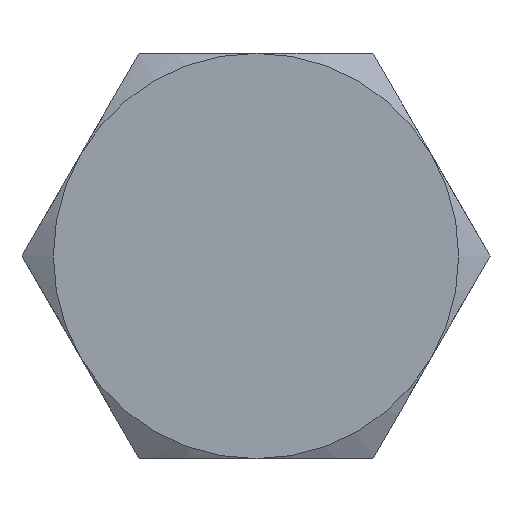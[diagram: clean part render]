
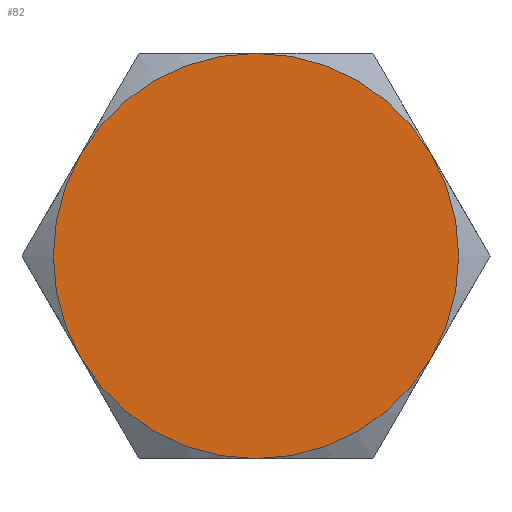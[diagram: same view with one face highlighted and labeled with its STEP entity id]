
A CAD part, left-side view. The second image highlights one B-rep face of the part: STEP entity #82.
In plain terms, the highlighted planar face has unit normal (-1, 0, 0).
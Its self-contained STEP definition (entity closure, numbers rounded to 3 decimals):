
#18 = VERTEX_POINT ( 'NONE', #424 ) ;
#25 = CARTESIAN_POINT ( 'NONE',  ( 0., 5.629, -3.25 ) ) ;
#29 = CARTESIAN_POINT ( 'NONE',  ( 0., 7.506, 0. ) ) ;
#33 = AXIS2_PLACEMENT_3D ( 'NONE', #612, #619, #558 ) ;
#34 = FACE_OUTER_BOUND ( 'NONE', #297, .T. ) ;
#41 = DIRECTION ( 'NONE',  ( 0., 0., 1. ) ) ;
#54 = ORIENTED_EDGE ( 'NONE', *, *, #709, .F. ) ;
#71 = DIRECTION ( 'NONE',  ( 0., 0., -1. ) ) ;
#76 = VERTEX_POINT ( 'NONE', #202 ) ;
#82 = ADVANCED_FACE ( 'NONE', ( #34 ), #549, .F. ) ;
#89 = AXIS2_PLACEMENT_3D ( 'NONE', #443, #668, #503 ) ;
#104 = DIRECTION ( 'NONE',  ( 1., 0., 0. ) ) ;
#110 = ORIENTED_EDGE ( 'NONE', *, *, #721, .F. ) ;
#112 = CARTESIAN_POINT ( 'NONE',  ( 0., 0., 0. ) ) ;
#165 = CARTESIAN_POINT ( 'NONE',  ( 0., 0., -6.5 ) ) ;
#175 = DIRECTION ( 'NONE',  ( 0., 0., -1. ) ) ;
#185 = CIRCLE ( 'NONE', #682, 6.5 ) ;
#202 = CARTESIAN_POINT ( 'NONE',  ( 0., 5.629, 3.25 ) ) ;
#226 = ORIENTED_EDGE ( 'NONE', *, *, #397, .F. ) ;
#230 = CIRCLE ( 'NONE', #425, 6.5 ) ;
#236 = VERTEX_POINT ( 'NONE', #453 ) ;
#255 = AXIS2_PLACEMENT_3D ( 'NONE', #29, #258, #313 ) ;
#256 = CIRCLE ( 'NONE', #671, 6.5 ) ;
#258 = DIRECTION ( 'NONE',  ( 1., 0., 0. ) ) ;
#286 = CARTESIAN_POINT ( 'NONE',  ( 0., 0., 0. ) ) ;
#297 = EDGE_LOOP ( 'NONE', ( #226, #54, #593, #739, #614, #110 ) ) ;
#313 = DIRECTION ( 'NONE',  ( 0., 0., -1. ) ) ;
#356 = CARTESIAN_POINT ( 'NONE',  ( 0., 0., 0. ) ) ;
#397 = EDGE_CURVE ( 'NONE', #688, #525, #423, .T. ) ;
#423 = CIRCLE ( 'NONE', #446, 6.5 ) ;
#424 = CARTESIAN_POINT ( 'NONE',  ( 0., 0., 6.5 ) ) ;
#425 = AXIS2_PLACEMENT_3D ( 'NONE', #112, #725, #41 ) ;
#440 = CARTESIAN_POINT ( 'NONE',  ( 0., -5.629, 3.25 ) ) ;
#443 = CARTESIAN_POINT ( 'NONE',  ( 0., 0., 0. ) ) ;
#446 = AXIS2_PLACEMENT_3D ( 'NONE', #356, #583, #71 ) ;
#450 = VERTEX_POINT ( 'NONE', #440 ) ;
#453 = CARTESIAN_POINT ( 'NONE',  ( 0., -5.629, -3.25 ) ) ;
#503 = DIRECTION ( 'NONE',  ( 0., 0., -1. ) ) ;
#507 = DIRECTION ( 'NONE',  ( 1., 0., 0. ) ) ;
#525 = VERTEX_POINT ( 'NONE', #25 ) ;
#549 = PLANE ( 'NONE',  #255 ) ;
#558 = DIRECTION ( 'NONE',  ( 0., 0., -1. ) ) ;
#566 = DIRECTION ( 'NONE',  ( 0., 0., -1. ) ) ;
#583 = DIRECTION ( 'NONE',  ( 1., 0., 0. ) ) ;
#588 = EDGE_CURVE ( 'NONE', #450, #236, #185, .T. ) ;
#593 = ORIENTED_EDGE ( 'NONE', *, *, #588, .F. ) ;
#594 = EDGE_CURVE ( 'NONE', #18, #450, #256, .T. ) ;
#612 = CARTESIAN_POINT ( 'NONE',  ( 0., 0., 0. ) ) ;
#614 = ORIENTED_EDGE ( 'NONE', *, *, #733, .T. ) ;
#619 = DIRECTION ( 'NONE',  ( 1., 0., 0. ) ) ;
#668 = DIRECTION ( 'NONE',  ( 1., 0., 0. ) ) ;
#671 = AXIS2_PLACEMENT_3D ( 'NONE', #286, #507, #566 ) ;
#677 = CARTESIAN_POINT ( 'NONE',  ( 0., 0., 0. ) ) ;
#682 = AXIS2_PLACEMENT_3D ( 'NONE', #677, #104, #175 ) ;
#688 = VERTEX_POINT ( 'NONE', #165 ) ;
#709 = EDGE_CURVE ( 'NONE', #236, #688, #729, .T. ) ;
#721 = EDGE_CURVE ( 'NONE', #525, #76, #741, .T. ) ;
#725 = DIRECTION ( 'NONE',  ( -1., 0., 0. ) ) ;
#729 = CIRCLE ( 'NONE', #89, 6.5 ) ;
#733 = EDGE_CURVE ( 'NONE', #18, #76, #230, .T. ) ;
#739 = ORIENTED_EDGE ( 'NONE', *, *, #594, .F. ) ;
#741 = CIRCLE ( 'NONE', #33, 6.5 ) ;
